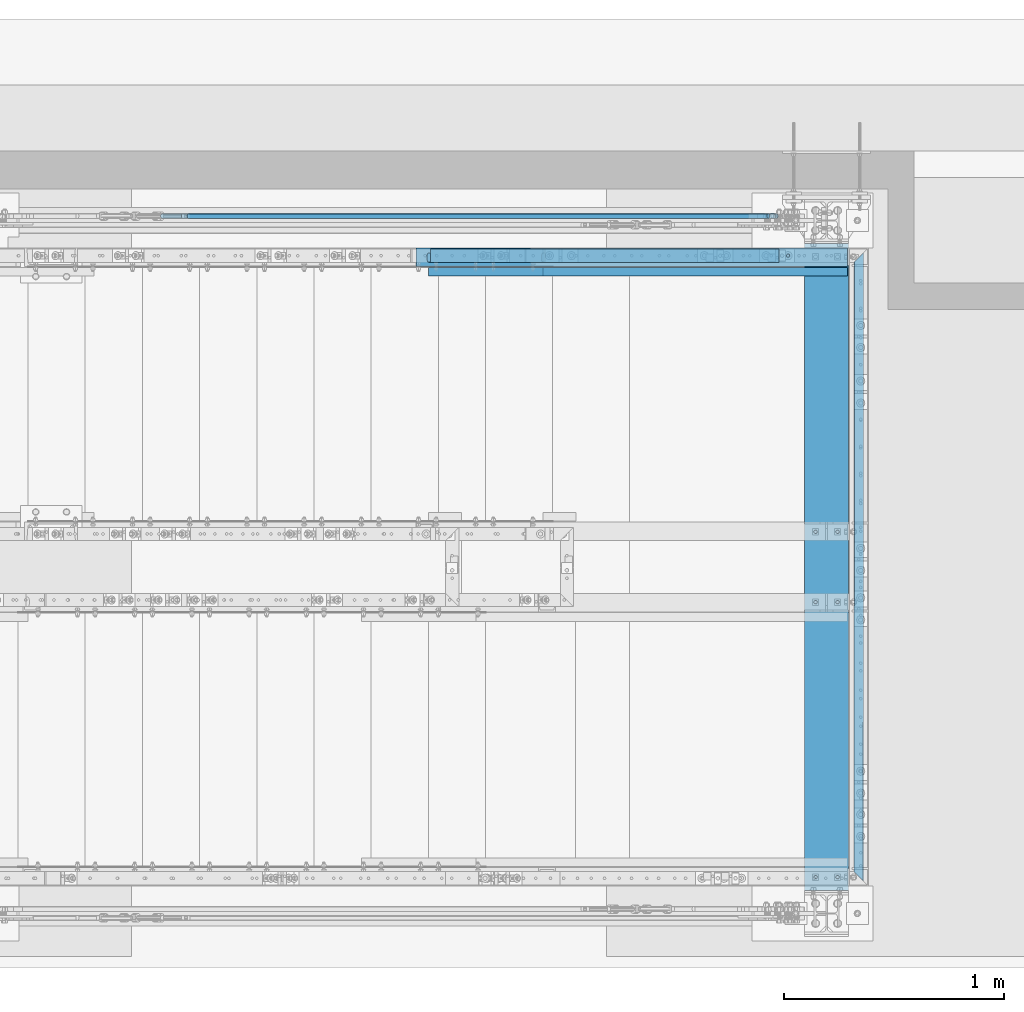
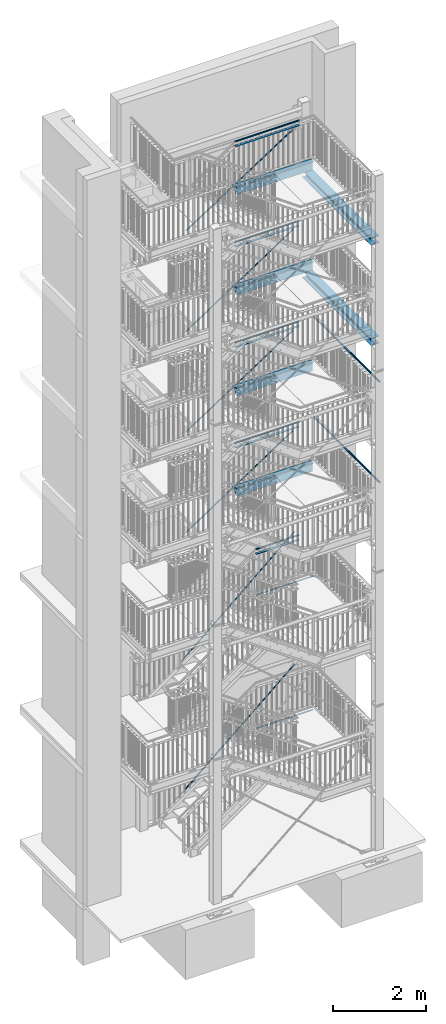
# One storey, part 133 of 831: 24 beams, 6 members, 40 openings.
"""IFC2X3 building model written with IfcOpenShell, lengths in millimetres."""

from ifc_helpers import new_model, entity, si_unit, converted_unit, frame, frame_2d, origin, origin_with_axes, origin_2d, origin_2d_with_axis, place, context, project, spatial, rectangle, circle, hollow_circle, i_section, l_section, u_section, extrude, clip, halfspace, material, element, save


model = new_model("IFC2X3")

# Units and contexts
model_context = context("Model", 3, precision=1e-09, world=origin_with_axes())
ifc_project = project(units=[si_unit("LENGTHUNIT", "METRE", prefix="MILLI"), si_unit("AREAUNIT", "SQUARE_METRE"), si_unit("VOLUMEUNIT", "CUBIC_METRE"), converted_unit("PLANEANGLEUNIT", "DEGREE", entity("IfcPlaneAngleMeasure", 0.01745329), si_unit("PLANEANGLEUNIT", "RADIAN"), dimensions=[0, 0, 0, 0, 0, 0, 0])], contexts=[model_context])

# Site, building, storey
site_placement = place(None, origin_with_axes())
site = spatial("IfcSite", under=ifc_project, at=site_placement, Name="Site", CompositionType="ELEMENT")
building_placement = place(site_placement, origin_with_axes())
building = spatial("IfcBuilding", under=site, at=building_placement, Name="Struktur 1", CompositionType="ELEMENT")
storey_placement = place(building_placement, origin_with_axes())
storey = spatial("IfcBuildingStorey", under=building, at=storey_placement, Name="Default Storey", CompositionType="ELEMENT", Elevation=0.0)

# Beams
ifc_material = material(Name="S235JR")
beam_1_placement = place(None, frame((7066.774372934, 7356.736971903, 17537.8000003), z_axis=(-1.0, 0.0, 0.0), x_axis=(0.0, 0.0, -1.0)))
element("IfcBeam", 1, at=beam_1_placement, inside=storey, material=ifc_material, Name="Railing_Kneerail_Landing#1005", ObjectType="Railing_Kneerail_Landing#1005", context=model_context, shape_type="SweptSolid", body=[
    extrude(rectangle(XDim=10.0, YDim=60.0, at=origin_2d()), origin(), (0.0, 0.0, -1.0), 1582.439601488),
])
beam_2_placement = place(None, frame((7025.211816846, 7347.936971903, 17664.0000003), z_axis=(-1.0, 0.0, 0.0), x_axis=(0.0, 0.0, -1.0)))
element("IfcBeam", 2, at=beam_2_placement, inside=storey, material=ifc_material, Name="Railing_Handrail_Landing#4", ObjectType="Railing_Handrail_Landing#4", context=model_context, shape_type="Clipping", body=[
    clip(extrude(hollow_circle(Radius=21.2, WallThickness=3.2, at=origin_2d()), origin(), (0.0, 0.0, -1.0), 1624.002157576), halfspace(frame((13938.996995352, 7347.936971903, -4526.368604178), z_axis=(-0.306904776, 0.0, -0.951740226), x_axis=(0.0, -1.0, 0.0)), True)),
])
beam_3_placement = place(None, frame((7066.821051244, 7356.736971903, 14910.3000001), z_axis=(-1.0, 0.0, 0.0), x_axis=(0.0, 0.0, -1.0)))
element("IfcBeam", 3, at=beam_3_placement, inside=storey, material=ifc_material, Name="Railing_Kneerail_Landing#1005", ObjectType="Railing_Kneerail_Landing#1005", context=model_context, shape_type="SweptSolid", body=[
    extrude(rectangle(XDim=10.0, YDim=60.0, at=origin_2d()), origin(), (0.0, 0.0, -1.0), 1582.392923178),
])
beam_4_placement = place(None, frame((7025.198020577, 7347.936971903, 15036.5000001), z_axis=(-1.0, 0.0, 0.0), x_axis=(0.0, 0.0, -1.0)))
element("IfcBeam", 4, at=beam_4_placement, inside=storey, material=ifc_material, Name="Railing_Handrail_Landing#4", ObjectType="Railing_Handrail_Landing#4", context=model_context, shape_type="Clipping", body=[
    clip(extrude(hollow_circle(Radius=21.2, WallThickness=3.2, at=origin_2d()), origin(), (0.0, 0.0, -1.0), 1624.015953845), halfspace(frame((11539.310370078, 7347.936971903, -3769.827031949), z_axis=(-0.308193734, 0.0, -0.951323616), x_axis=(0.0, -1.0, 0.0)), True)),
])
beam_5_placement = place(None, frame((7066.796173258, 7356.736971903, 12279.3000003), z_axis=(-1.0, 0.0, 0.0), x_axis=(0.0, 0.0, -1.0)))
element("IfcBeam", 5, at=beam_5_placement, inside=storey, material=ifc_material, Name="Railing_Kneerail_Landing#1005", ObjectType="Railing_Kneerail_Landing#1005", context=model_context, shape_type="SweptSolid", body=[
    extrude(rectangle(XDim=10.0, YDim=60.0, at=origin_2d()), origin(), (0.0, 0.0, -1.0), 1582.417801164),
])
beam_6_placement = place(None, frame((7025.205380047, 7347.936971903, 12405.5000003), z_axis=(-1.0, 0.0, 0.0), x_axis=(0.0, 0.0, -1.0)))
element("IfcBeam", 6, at=beam_6_placement, inside=storey, material=ifc_material, Name="Railing_Handrail_Landing#4", ObjectType="Railing_Handrail_Landing#4", context=model_context, shape_type="Clipping", body=[
    clip(extrude(hollow_circle(Radius=21.2, WallThickness=3.2, at=origin_2d()), origin(), (0.0, 0.0, -1.0), 1624.008594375), halfspace(frame((9167.585155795, 7347.936971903, -2994.158300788), z_axis=(-0.307506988, 0.0, -0.951545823), x_axis=(0.0, -1.0, 0.0)), True)),
])
beam_7_placement = place(None, frame((7066.811726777, 7356.736971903, 9649.8), z_axis=(-1.0, 0.0, 0.0), x_axis=(0.0, 0.0, -1.0)))
element("IfcBeam", 7, at=beam_7_placement, inside=storey, material=ifc_material, Name="Railing_Kneerail_Landing#1005", ObjectType="Railing_Kneerail_Landing#1005", context=model_context, shape_type="SweptSolid", body=[
    extrude(rectangle(XDim=10.0, YDim=60.0, at=origin_2d()), origin(), (0.0, 0.0, -1.0), 1582.402247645),
])
beam_8_placement = place(None, frame((7025.200780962, 7347.936971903, 9776.0), z_axis=(-1.0, 0.0, 0.0), x_axis=(0.0, 0.0, -1.0)))
element("IfcBeam", 8, at=beam_8_placement, inside=storey, material=ifc_material, Name="Railing_Handrail_Landing#4", ObjectType="Railing_Handrail_Landing#4", context=model_context, shape_type="Clipping", body=[
    clip(extrude(hollow_circle(Radius=21.2, WallThickness=3.2, at=origin_2d()), origin(), (0.0, 0.0, -1.0), 1624.013193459), halfspace(frame((6781.567004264, 7347.936971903, -2226.46429398), z_axis=(-0.307936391, 0.0, -0.951406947), x_axis=(0.0, -1.0, 0.0)), True)),
])
beam_9_placement = place(None, frame((7586.583247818, 7356.736971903, 6688.6947367), z_axis=(-1.0, 0.0, 0.0), x_axis=(0.0, 0.0, -1.0)))
element("IfcBeam", 9, at=beam_9_placement, inside=storey, material=ifc_material, Name="Railing_Kneerail_Landing#1005", ObjectType="Railing_Kneerail_Landing#1005", context=model_context, shape_type="SweptSolid", body=[
    extrude(rectangle(XDim=10.0, YDim=60.0, at=origin_2d()), origin(), (0.0, 0.0, -1.0), 1062.630726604),
])
beam_10_placement = place(None, frame((7545.267696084, 7347.936971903, 6814.8947367), z_axis=(-1.0, 0.0, 0.0), x_axis=(0.0, 0.0, -1.0)))
element("IfcBeam", 10, at=beam_10_placement, inside=storey, material=ifc_material, Name="Railing_Handrail_Landing#4", ObjectType="Railing_Handrail_Landing#4", context=model_context, shape_type="Clipping", body=[
    clip(extrude(hollow_circle(Radius=21.2, WallThickness=3.2, at=origin_2d()), origin(), (0.0, 0.0, -1.0), 1103.946278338), halfspace(frame((4016.163485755, 7347.936971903, -1301.924645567), z_axis=(-0.301609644, 0.0, -0.953431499), x_axis=(0.0, -1.0, 0.0)), True)),
])

# Members
member_1_placement = place(None, frame((8638.256627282, 7536.736971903, 3315.333465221), z_axis=(0.757867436, 0.0, 0.652408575), x_axis=(-0.652408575, 0.0, 0.757867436)))
element("IfcMember", 11, at=member_1_placement, inside=storey, material=ifc_material, Name="-", ObjectType="-", context=model_context, shape_type="SweptSolid", body=[
    extrude(circle(Radius=11.0, at=origin_2d()), origin(), (0.0, 0.0, -1.0), 3558.714022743),
])
member_2_placement = place(None, frame((8601.499143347, 7536.736971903, 9442.923796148), z_axis=(0.836004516, 0.0, 0.548722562), x_axis=(-0.548722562, 0.0, 0.836004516)))
element("IfcMember", 12, at=member_2_placement, inside=storey, material=ifc_material, Name="-", ObjectType="-", context=model_context, shape_type="SweptSolid", body=[
    extrude(circle(Radius=11.0, at=origin_2d()), origin(), (0.0, 0.0, -1.0), 3152.493859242),
])
member_3_placement = place(None, frame((8640.181685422, 7536.736971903, 6788.804321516), z_axis=(0.755906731, 0.0, 0.654679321), x_axis=(-0.654679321, 0.0, 0.755906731)))
element("IfcMember", 13, at=member_3_placement, inside=storey, material=ifc_material, Name="-", ObjectType="-", context=model_context, shape_type="SweptSolid", body=[
    extrude(circle(Radius=11.0, at=origin_2d()), origin(), (0.0, 0.0, -1.0), 3695.891465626),
])
member_4_placement = place(None, frame((8601.346619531, 7536.736971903, 12070.156818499), z_axis=(0.836491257, 0.0, 0.54798027), x_axis=(-0.54798027, 0.0, 0.836491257)))
element("IfcMember", 14, at=member_4_placement, inside=storey, material=ifc_material, Name="-", ObjectType="-", context=model_context, shape_type="SweptSolid", body=[
    extrude(circle(Radius=11.0, at=origin_2d()), origin(), (0.0, 0.0, -1.0), 3149.75246665),
])
member_5_placement = place(None, frame((8601.589769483, 7536.736971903, 14704.78533918), z_axis=(0.835719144, 0.0, 0.549157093), x_axis=(-0.549157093, 0.0, 0.835719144)))
element("IfcMember", 15, at=member_5_placement, inside=storey, material=ifc_material, Name="-", ObjectType="-", context=model_context, shape_type="SweptSolid", body=[
    extrude(circle(Radius=11.0, at=origin_2d()), origin(), (0.0, 0.0, -1.0), 3154.140224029),
])
member_6_placement = place(None, frame((8601.135141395, 7536.736971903, 17325.480034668), z_axis=(0.837153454, 0.0, 0.546968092), x_axis=(-0.546968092, 0.0, 0.837153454)))
element("IfcMember", 16, at=member_6_placement, inside=storey, material=ifc_material, Name="-", ObjectType="-", context=model_context, shape_type="SweptSolid", body=[
    extrude(circle(Radius=11.0, at=origin_2d()), origin(), (0.0, 0.0, -1.0), 3145.919934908),
])

# Beam, openings
beam_11_placement = place(None, frame((6741.392105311, 7329.036971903, 11145.5000003), z_axis=(1.0, 0.0, 0.0), x_axis=(0.0, 1.0, 0.0)))
beam_11 = element("IfcBeam", 17, at=beam_11_placement, inside=storey, material=ifc_material, Name="Stringer", ObjectType="Stringer", context=model_context, shape_type="Clipping", body=[
    clip(clip(extrude(u_section(Depth=240.0, FlangeWidth=85.0, WebThickness=9.5, FlangeThickness=13.0, FilletRadius=13.0, EdgeRadius=6.5, FlangeSlope=4.574, at=frame_2d((20.2, 0.0))), origin(), (0.0, 0.0, 1.0), 2477.625068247), halfspace(frame((-7329.036971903, -11145.5000003, 2220.320297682), z_axis=(0.0, 0.0, -1.0), x_axis=(-1.0, 0.0, 0.0)), True)), halfspace(frame((-7329.036971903, -8031.601758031, 2894.216134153), z_axis=(0.0, 0.307506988, 0.951545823), x_axis=(1.0, 0.0, 0.0)), True)),
])
opening_1_placement = place(beam_11_placement, frame((27.7, 120.5, 1943.320869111), z_axis=(0.0, 1.0, 0.0), x_axis=(-1.0, 0.0, 0.0)))
element("IfcOpeningElement", 18, at=opening_1_placement, cuts=beam_11, ObjectType="Opening", context=model_context, shape_type="SweptSolid", body=[
    extrude(circle(Radius=7.001, at=frame_2d((0.0, 7.001), x_axis=(1.0, 0.0))), origin(), (0.0, 0.0, -1.0), 14.0),
])
opening_2_placement = place(beam_11_placement, frame((27.7, 120.5, 1843.320869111), z_axis=(0.0, 1.0, 0.0), x_axis=(-1.0, 0.0, 0.0)))
element("IfcOpeningElement", 19, at=opening_2_placement, cuts=beam_11, ObjectType="Opening", context=model_context, shape_type="SweptSolid", body=[
    extrude(circle(Radius=7.001, at=frame_2d((0.0, 7.001), x_axis=(1.0, 0.0))), origin(), (0.0, 0.0, -1.0), 14.0),
])
opening_3_placement = place(beam_11_placement, frame((27.7, 120.5, 958.320726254), z_axis=(0.0, 1.0, 0.0), x_axis=(-1.0, 0.0, 0.0)))
element("IfcOpeningElement", 20, at=opening_3_placement, cuts=beam_11, ObjectType="Opening", context=model_context, shape_type="SweptSolid", body=[
    extrude(circle(Radius=7.001, at=frame_2d((0.0, 7.001), x_axis=(1.0, 0.0))), origin(), (0.0, 0.0, -1.0), 14.0),
])
opening_4_placement = place(beam_11_placement, frame((27.7, 120.5, 858.320726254), z_axis=(0.0, 1.0, 0.0), x_axis=(-1.0, 0.0, 0.0)))
element("IfcOpeningElement", 21, at=opening_4_placement, cuts=beam_11, ObjectType="Opening", context=model_context, shape_type="SweptSolid", body=[
    extrude(circle(Radius=7.001, at=frame_2d((0.0, 7.001), x_axis=(1.0, 0.0))), origin(), (0.0, 0.0, -1.0), 14.0),
])
opening_5_placement = place(beam_11_placement, frame((22.7, -120.5, 2075.321297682), z_axis=(0.0, 1.0, 0.0), x_axis=(1.0, 0.0, 0.0)))
element("IfcOpeningElement", 22, at=opening_5_placement, cuts=beam_11, ObjectType="Opening", context=model_context, shape_type="SweptSolid", body=[
    extrude(circle(Radius=7.001, at=origin_2d_with_axis()), origin(), (0.0, 0.0, 1.0), 14.0),
])
opening_6_placement = place(beam_11_placement, frame((22.7, -120.5, 2175.321297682), z_axis=(0.0, 1.0, 0.0), x_axis=(1.0, 0.0, 0.0)))
element("IfcOpeningElement", 23, at=opening_6_placement, cuts=beam_11, ObjectType="Opening", context=model_context, shape_type="SweptSolid", body=[
    extrude(circle(Radius=7.001, at=origin_2d_with_axis()), origin(), (0.0, 0.0, 1.0), 14.0),
])

# Beam
beam_12_placement = place(None, frame((7056.713402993, 7292.536971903, 11254.3000003), z_axis=(-1.0, 0.0, 0.0), x_axis=(0.0, 0.0, -1.0)))
element("IfcBeam", 24, at=beam_12_placement, inside=storey, material=ifc_material, Name="TopLanding#3", ObjectType="TopLanding#3", context=model_context, shape_type="SweptSolid", body=[
    extrude(l_section(Depth=40.0, Width=40.0, Thickness=4.0, FilletRadius=6.0, EdgeRadius=3.0, at=frame_2d((8.8, 8.8))), origin(), (0.0, 0.0, -1.0), 1905.0),
])

# Beam, openings
beam_13_placement = place(None, frame((6741.459458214, 7329.036971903, 8516.0), z_axis=(1.0, 0.0, 0.0), x_axis=(0.0, 1.0, 0.0)))
beam_13 = element("IfcBeam", 25, at=beam_13_placement, inside=storey, material=ifc_material, Name="Stringer", ObjectType="Stringer", context=model_context, shape_type="Clipping", body=[
    clip(clip(extrude(u_section(Depth=240.0, FlangeWidth=85.0, WebThickness=9.5, FlangeThickness=13.0, FilletRadius=13.0, EdgeRadius=6.5, FlangeSlope=4.574, at=frame_2d((20.2, 0.0))), origin(), (0.0, 0.0, 1.0), 2477.557715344), halfspace(frame((-7329.036971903, -8516.0, 2220.25294478), z_axis=(0.0, 0.0, -1.0), x_axis=(-1.0, 0.0, 0.0)), True)), halfspace(frame((-7329.036971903, -5645.874307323, 2126.143079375), z_axis=(0.0, 0.307936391, 0.951406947), x_axis=(1.0, 0.0, 0.0)), True)),
])
opening_7_placement = place(beam_13_placement, frame((27.7, 120.5, 1943.253516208), z_axis=(0.0, 1.0, 0.0), x_axis=(-1.0, 0.0, 0.0)))
element("IfcOpeningElement", 26, at=opening_7_placement, cuts=beam_13, ObjectType="Opening", context=model_context, shape_type="SweptSolid", body=[
    extrude(circle(Radius=7.001, at=frame_2d((0.0, 7.001), x_axis=(1.0, 0.0))), origin(), (0.0, 0.0, -1.0), 14.0),
])
opening_8_placement = place(beam_13_placement, frame((27.7, 120.5, 1843.253516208), z_axis=(0.0, 1.0, 0.0), x_axis=(-1.0, 0.0, 0.0)))
element("IfcOpeningElement", 27, at=opening_8_placement, cuts=beam_13, ObjectType="Opening", context=model_context, shape_type="SweptSolid", body=[
    extrude(circle(Radius=7.001, at=frame_2d((0.0, 7.001), x_axis=(1.0, 0.0))), origin(), (0.0, 0.0, -1.0), 14.0),
])
opening_9_placement = place(beam_13_placement, frame((27.7, 120.5, 958.253373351), z_axis=(0.0, 1.0, 0.0), x_axis=(-1.0, 0.0, 0.0)))
element("IfcOpeningElement", 28, at=opening_9_placement, cuts=beam_13, ObjectType="Opening", context=model_context, shape_type="SweptSolid", body=[
    extrude(circle(Radius=7.001, at=frame_2d((0.0, 7.001), x_axis=(1.0, 0.0))), origin(), (0.0, 0.0, -1.0), 14.0),
])
opening_10_placement = place(beam_13_placement, frame((27.7, 120.5, 858.253373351), z_axis=(0.0, 1.0, 0.0), x_axis=(-1.0, 0.0, 0.0)))
element("IfcOpeningElement", 29, at=opening_10_placement, cuts=beam_13, ObjectType="Opening", context=model_context, shape_type="SweptSolid", body=[
    extrude(circle(Radius=7.001, at=frame_2d((0.0, 7.001), x_axis=(1.0, 0.0))), origin(), (0.0, 0.0, -1.0), 14.0),
])
opening_11_placement = place(beam_13_placement, frame((22.7, -120.5, 2075.25394478), z_axis=(0.0, 1.0, 0.0), x_axis=(1.0, 0.0, 0.0)))
element("IfcOpeningElement", 30, at=opening_11_placement, cuts=beam_13, ObjectType="Opening", context=model_context, shape_type="SweptSolid", body=[
    extrude(circle(Radius=7.001, at=origin_2d_with_axis()), origin(), (0.0, 0.0, 1.0), 14.0),
])
opening_12_placement = place(beam_13_placement, frame((22.7, -120.5, 2175.25394478), z_axis=(0.0, 1.0, 0.0), x_axis=(1.0, 0.0, 0.0)))
element("IfcOpeningElement", 31, at=opening_12_placement, cuts=beam_13, ObjectType="Opening", context=model_context, shape_type="SweptSolid", body=[
    extrude(circle(Radius=7.001, at=origin_2d_with_axis()), origin(), (0.0, 0.0, 1.0), 14.0),
])

# Beam
beam_14_placement = place(None, frame((7056.713402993, 7292.536971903, 8624.8), z_axis=(-1.0, 0.0, 0.0), x_axis=(0.0, 0.0, -1.0)))
element("IfcBeam", 32, at=beam_14_placement, inside=storey, material=ifc_material, Name="TopLanding#3", ObjectType="TopLanding#3", context=model_context, shape_type="SweptSolid", body=[
    extrude(l_section(Depth=40.0, Width=40.0, Thickness=4.0, FilletRadius=6.0, EdgeRadius=3.0, at=frame_2d((8.8, 8.8))), origin(), (0.0, 0.0, -1.0), 1905.0),
])

# Beam, openings
beam_15_placement = place(None, frame((6741.499671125, 7329.036971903, 13776.5000001), z_axis=(1.0, 0.0, 0.0), x_axis=(0.0, 1.0, 0.0)))
beam_15 = element("IfcBeam", 33, at=beam_15_placement, inside=storey, material=ifc_material, Name="Stringer", ObjectType="Stringer", context=model_context, shape_type="Clipping", body=[
    clip(clip(extrude(u_section(Depth=240.0, FlangeWidth=85.0, WebThickness=9.5, FlangeThickness=13.0, FilletRadius=13.0, EdgeRadius=6.5, FlangeSlope=4.574, at=frame_2d((20.2, 0.0))), origin(), (0.0, 0.0, 1.0), 2477.517502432), halfspace(frame((-7329.036971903, -13776.5000001, 2220.212731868), z_axis=(0.0, 0.0, -1.0), x_axis=(-1.0, 0.0, 0.0)), True)), halfspace(frame((-7329.036971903, -10403.792085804, 3669.278777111), z_axis=(0.0, 0.308193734, 0.951323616), x_axis=(1.0, 0.0, 0.0)), True)),
])
opening_13_placement = place(beam_15_placement, frame((27.7, 120.5, 1943.213303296), z_axis=(0.0, 1.0, 0.0), x_axis=(-1.0, 0.0, 0.0)))
element("IfcOpeningElement", 34, at=opening_13_placement, cuts=beam_15, ObjectType="Opening", context=model_context, shape_type="SweptSolid", body=[
    extrude(circle(Radius=7.001, at=frame_2d((0.0, 7.001), x_axis=(1.0, 0.0))), origin(), (0.0, 0.0, -1.0), 14.0),
])
opening_14_placement = place(beam_15_placement, frame((27.7, 120.5, 1843.213303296), z_axis=(0.0, 1.0, 0.0), x_axis=(-1.0, 0.0, 0.0)))
element("IfcOpeningElement", 35, at=opening_14_placement, cuts=beam_15, ObjectType="Opening", context=model_context, shape_type="SweptSolid", body=[
    extrude(circle(Radius=7.001, at=frame_2d((0.0, 7.001), x_axis=(1.0, 0.0))), origin(), (0.0, 0.0, -1.0), 14.0),
])
opening_15_placement = place(beam_15_placement, frame((27.7, 120.5, 958.213160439), z_axis=(0.0, 1.0, 0.0), x_axis=(-1.0, 0.0, 0.0)))
element("IfcOpeningElement", 36, at=opening_15_placement, cuts=beam_15, ObjectType="Opening", context=model_context, shape_type="SweptSolid", body=[
    extrude(circle(Radius=7.001, at=frame_2d((0.0, 7.001), x_axis=(1.0, 0.0))), origin(), (0.0, 0.0, -1.0), 14.0),
])
opening_16_placement = place(beam_15_placement, frame((27.7, 120.5, 858.213160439), z_axis=(0.0, 1.0, 0.0), x_axis=(-1.0, 0.0, 0.0)))
element("IfcOpeningElement", 37, at=opening_16_placement, cuts=beam_15, ObjectType="Opening", context=model_context, shape_type="SweptSolid", body=[
    extrude(circle(Radius=7.001, at=frame_2d((0.0, 7.001), x_axis=(1.0, 0.0))), origin(), (0.0, 0.0, -1.0), 14.0),
])
opening_17_placement = place(beam_15_placement, frame((22.7, -120.5, 2075.213731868), z_axis=(0.0, 1.0, 0.0), x_axis=(1.0, 0.0, 0.0)))
element("IfcOpeningElement", 38, at=opening_17_placement, cuts=beam_15, ObjectType="Opening", context=model_context, shape_type="SweptSolid", body=[
    extrude(circle(Radius=7.001, at=origin_2d_with_axis()), origin(), (0.0, 0.0, 1.0), 14.0),
])
opening_18_placement = place(beam_15_placement, frame((22.7, -120.5, 2175.213731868), z_axis=(0.0, 1.0, 0.0), x_axis=(1.0, 0.0, 0.0)))
element("IfcOpeningElement", 39, at=opening_18_placement, cuts=beam_15, ObjectType="Opening", context=model_context, shape_type="SweptSolid", body=[
    extrude(circle(Radius=7.001, at=origin_2d_with_axis()), origin(), (0.0, 0.0, 1.0), 14.0),
])

# Beam
beam_16_placement = place(None, frame((7056.713402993, 7292.536971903, 13885.3000001), z_axis=(-1.0, 0.0, 0.0), x_axis=(0.0, 0.0, -1.0)))
element("IfcBeam", 40, at=beam_16_placement, inside=storey, material=ifc_material, Name="TopLanding#3", ObjectType="TopLanding#3", context=model_context, shape_type="SweptSolid", body=[
    extrude(l_section(Depth=40.0, Width=40.0, Thickness=4.0, FilletRadius=6.0, EdgeRadius=3.0, at=frame_2d((8.8, 8.8))), origin(), (0.0, 0.0, -1.0), 1905.0),
])

# Beam, openings
beam_17_placement = place(None, frame((6741.297112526, 7329.036971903, 16404.0000003), z_axis=(1.0, 0.0, 0.0), x_axis=(0.0, 1.0, 0.0)))
beam_17 = element("IfcBeam", 41, at=beam_17_placement, inside=storey, material=ifc_material, Name="Stringer", ObjectType="Stringer", context=model_context, shape_type="Clipping", body=[
    clip(clip(extrude(u_section(Depth=240.0, FlangeWidth=85.0, WebThickness=9.5, FlangeThickness=13.0, FilletRadius=13.0, EdgeRadius=6.5, FlangeSlope=4.574, at=frame_2d((20.2, 0.0))), origin(), (0.0, 0.0, 1.0), 2477.720061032), halfspace(frame((-7329.036971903, -16404.0000003, 2220.415290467), z_axis=(0.0, 0.0, -1.0), x_axis=(-1.0, 0.0, 0.0)), True)), halfspace(frame((-7329.036971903, -12802.606591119, 4426.958467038), z_axis=(0.0, 0.306904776, 0.951740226), x_axis=(1.0, 0.0, 0.0)), True)),
])
opening_19_placement = place(beam_17_placement, frame((27.7, 120.5, 1943.415861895), z_axis=(0.0, 1.0, 0.0), x_axis=(-1.0, 0.0, 0.0)))
element("IfcOpeningElement", 42, at=opening_19_placement, cuts=beam_17, ObjectType="Opening", context=model_context, shape_type="SweptSolid", body=[
    extrude(circle(Radius=7.001, at=frame_2d((0.0, 7.001), x_axis=(1.0, 0.0))), origin(), (0.0, 0.0, -1.0), 14.0),
])
opening_20_placement = place(beam_17_placement, frame((27.7, 120.5, 1843.415861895), z_axis=(0.0, 1.0, 0.0), x_axis=(-1.0, 0.0, 0.0)))
element("IfcOpeningElement", 43, at=opening_20_placement, cuts=beam_17, ObjectType="Opening", context=model_context, shape_type="SweptSolid", body=[
    extrude(circle(Radius=7.001, at=frame_2d((0.0, 7.001), x_axis=(1.0, 0.0))), origin(), (0.0, 0.0, -1.0), 14.0),
])
opening_21_placement = place(beam_17_placement, frame((27.7, 120.5, 958.415719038), z_axis=(0.0, 1.0, 0.0), x_axis=(-1.0, 0.0, 0.0)))
element("IfcOpeningElement", 44, at=opening_21_placement, cuts=beam_17, ObjectType="Opening", context=model_context, shape_type="SweptSolid", body=[
    extrude(circle(Radius=7.001, at=frame_2d((0.0, 7.001), x_axis=(1.0, 0.0))), origin(), (0.0, 0.0, -1.0), 14.0),
])
opening_22_placement = place(beam_17_placement, frame((27.7, 120.5, 858.415719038), z_axis=(0.0, 1.0, 0.0), x_axis=(-1.0, 0.0, 0.0)))
element("IfcOpeningElement", 45, at=opening_22_placement, cuts=beam_17, ObjectType="Opening", context=model_context, shape_type="SweptSolid", body=[
    extrude(circle(Radius=7.001, at=frame_2d((0.0, 7.001), x_axis=(1.0, 0.0))), origin(), (0.0, 0.0, -1.0), 14.0),
])
opening_23_placement = place(beam_17_placement, frame((22.7, -120.5, 2175.416290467), z_axis=(0.0, 1.0, 0.0), x_axis=(1.0, 0.0, 0.0)))
element("IfcOpeningElement", 46, at=opening_23_placement, cuts=beam_17, ObjectType="Opening", context=model_context, shape_type="SweptSolid", body=[
    extrude(circle(Radius=7.001, at=origin_2d_with_axis()), origin(), (0.0, 0.0, 1.0), 14.0),
])
opening_24_placement = place(beam_17_placement, frame((22.7, -120.5, 2075.416290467), z_axis=(0.0, 1.0, 0.0), x_axis=(1.0, 0.0, 0.0)))
element("IfcOpeningElement", 47, at=opening_24_placement, cuts=beam_17, ObjectType="Opening", context=model_context, shape_type="SweptSolid", body=[
    extrude(circle(Radius=7.001, at=origin_2d_with_axis()), origin(), (0.0, 0.0, 1.0), 14.0),
])

# Beams
beam_18_placement = place(None, frame((7056.713402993, 7292.536971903, 16512.8000003), z_axis=(-1.0, 0.0, 0.0), x_axis=(0.0, 0.0, -1.0)))
element("IfcBeam", 48, at=beam_18_placement, inside=storey, material=ifc_material, Name="TopLanding#3", ObjectType="TopLanding#3", context=model_context, shape_type="SweptSolid", body=[
    extrude(l_section(Depth=40.0, Width=40.0, Thickness=4.0, FilletRadius=6.0, EdgeRadius=3.0, at=frame_2d((8.8, 8.8))), origin(), (0.0, 0.0, -1.0), 1905.0),
])
for number, where, z_axis, x_axis, name in (
    (49, (7576.713402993, 7292.536971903, 5663.6947367), (-1.0, 0.0, 0.0), (0.0, 0.0, -1.0), "TopLanding#3"),
    (50, (7576.713402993, 7292.536971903, 2169.8526312), (-1.0, 0.0, 0.0), (0.0, 0.0, -1.0), "TopLanding#3"),
):
    element("IfcBeam", number, at=place(None, frame(where, z_axis=z_axis, x_axis=x_axis)), inside=storey, material=ifc_material, Name=name, ObjectType="TopLanding#3", context=model_context, shape_type="SweptSolid", body=[
        extrude(l_section(Depth=40.0, Width=40.0, Thickness=4.0, FilletRadius=6.0, EdgeRadius=3.0, at=frame_2d((8.8, 8.8))), origin(), (0.0, 0.0, -1.0), 1385.0),
    ])

# Beam, openings
beam_19_placement = place(None, frame((8866.713402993, 7559.668114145, 13561.5000001), z_axis=(0.0, -1.0, 0.0), x_axis=(-1.0, 0.0, 0.0)))
beam_19 = element("IfcBeam", 51, at=beam_19_placement, inside=storey, material=ifc_material, Name="Girder", ObjectType="Girder", context=model_context, shape_type="Clipping", body=[
    clip(clip(extrude(i_section(OverallWidth=200.0, OverallDepth=190.0, WebThickness=6.5, FlangeThickness=10.0, FilletRadius=18.0, at=origin_2d()), origin(), (0.0, 0.0, 1.0), 3235.862284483), halfspace(frame((8866.713402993, 13561.5000001, 3087.930142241), z_axis=(0.0, 0.0, -1.0), x_axis=(1.0, 0.0, 0.0)), True)), halfspace(frame((8866.713402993, 13561.5000001, 147.932142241), z_axis=(0.0, 0.0, 1.0), x_axis=(-1.0, 0.0, 0.0)), True)),
])
opening_25_placement = place(beam_19_placement, frame((50.0, -84.5, 1457.931142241), z_axis=(0.0, -1.0, 0.0), x_axis=(0.0, 0.0, -1.0)))
element("IfcOpeningElement", 52, at=opening_25_placement, cuts=beam_19, ObjectType="Opening", context=model_context, shape_type="SweptSolid", body=[
    extrude(circle(Radius=7.001, at=origin_2d_with_axis()), origin(), (0.0, 0.0, 1.0), 11.0),
])
opening_26_placement = place(beam_19_placement, frame((50.0, -84.5, 207.931142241), z_axis=(0.0, -1.0, 0.0), x_axis=(0.0, 0.0, -1.0)))
element("IfcOpeningElement", 53, at=opening_26_placement, cuts=beam_19, ObjectType="Opening", context=model_context, shape_type="SweptSolid", body=[
    extrude(circle(Radius=7.001, at=origin_2d_with_axis()), origin(), (0.0, 0.0, 1.0), 11.0),
])
opening_27_placement = place(beam_19_placement, frame((-50.0, -84.5, 3034.932142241), z_axis=(0.0, 1.0, 0.0), x_axis=(-1.0, 0.0, 0.0)))
element("IfcOpeningElement", 54, at=opening_27_placement, cuts=beam_19, ObjectType="Opening", context=model_context, shape_type="SweptSolid", body=[
    extrude(circle(Radius=7.001, at=frame_2d((0.0, -7.001), x_axis=(1.0, 0.0))), origin(), (0.0, 0.0, -1.0), 11.0),
])
opening_28_placement = place(beam_19_placement, frame((-50.0, -84.5, 1457.931142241), z_axis=(0.0, -1.0, 0.0), x_axis=(0.0, 0.0, -1.0)))
element("IfcOpeningElement", 55, at=opening_28_placement, cuts=beam_19, ObjectType="Opening", context=model_context, shape_type="SweptSolid", body=[
    extrude(circle(Radius=7.001, at=origin_2d_with_axis()), origin(), (0.0, 0.0, 1.0), 11.0),
])
opening_29_placement = place(beam_19_placement, frame((50.0, -84.5, 3034.932142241), z_axis=(0.0, 1.0, 0.0), x_axis=(-1.0, 0.0, 0.0)))
element("IfcOpeningElement", 56, at=opening_29_placement, cuts=beam_19, ObjectType="Opening", context=model_context, shape_type="SweptSolid", body=[
    extrude(circle(Radius=7.001, at=frame_2d((0.0, -7.001), x_axis=(1.0, 0.0))), origin(), (0.0, 0.0, -1.0), 11.0),
])
opening_30_placement = place(beam_19_placement, frame((-50.0, -84.5, 1784.932142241), z_axis=(0.0, 1.0, 0.0), x_axis=(-1.0, 0.0, 0.0)))
element("IfcOpeningElement", 57, at=opening_30_placement, cuts=beam_19, ObjectType="Opening", context=model_context, shape_type="SweptSolid", body=[
    extrude(circle(Radius=7.001, at=frame_2d((0.0, -7.001), x_axis=(1.0, 0.0))), origin(), (0.0, 0.0, -1.0), 11.0),
])
opening_31_placement = place(beam_19_placement, frame((50.0, -84.5, 1784.932142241), z_axis=(0.0, 1.0, 0.0), x_axis=(-1.0, 0.0, 0.0)))
element("IfcOpeningElement", 58, at=opening_31_placement, cuts=beam_19, ObjectType="Opening", context=model_context, shape_type="SweptSolid", body=[
    extrude(circle(Radius=7.001, at=frame_2d((0.0, -7.001), x_axis=(1.0, 0.0))), origin(), (0.0, 0.0, -1.0), 11.0),
])
opening_32_placement = place(beam_19_placement, frame((-50.0, -84.5, 207.931142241), z_axis=(0.0, -1.0, 0.0), x_axis=(0.0, 0.0, -1.0)))
element("IfcOpeningElement", 59, at=opening_32_placement, cuts=beam_19, ObjectType="Opening", context=model_context, shape_type="SweptSolid", body=[
    extrude(circle(Radius=7.001, at=origin_2d_with_axis()), origin(), (0.0, 0.0, 1.0), 11.0),
])

beam_20_placement = place(None, frame((8866.713402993, 7559.668114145, 16189.0000003), z_axis=(0.0, -1.0, 0.0), x_axis=(-1.0, 0.0, 0.0)))
beam_20 = element("IfcBeam", 60, at=beam_20_placement, inside=storey, material=ifc_material, Name="Girder", ObjectType="Girder", context=model_context, shape_type="Clipping", body=[
    clip(clip(extrude(i_section(OverallWidth=200.0, OverallDepth=190.0, WebThickness=6.5, FlangeThickness=10.0, FilletRadius=18.0, at=origin_2d()), origin(), (0.0, 0.0, 1.0), 3235.862284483), halfspace(frame((8866.713402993, 16189.0000003, 3087.930142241), z_axis=(0.0, 0.0, -1.0), x_axis=(1.0, 0.0, 0.0)), True)), halfspace(frame((8866.713402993, 16189.0000003, 147.932142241), z_axis=(0.0, 0.0, 1.0), x_axis=(-1.0, 0.0, 0.0)), True)),
])
opening_33_placement = place(beam_20_placement, frame((50.0, -84.5, 1784.932142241), z_axis=(0.0, 1.0, 0.0), x_axis=(-1.0, 0.0, 0.0)))
element("IfcOpeningElement", 61, at=opening_33_placement, cuts=beam_20, ObjectType="Opening", context=model_context, shape_type="SweptSolid", body=[
    extrude(circle(Radius=7.001, at=frame_2d((0.0, -7.001), x_axis=(1.0, 0.0))), origin(), (0.0, 0.0, -1.0), 11.0),
])
opening_34_placement = place(beam_20_placement, frame((-50.0, -84.5, 1457.931142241), z_axis=(0.0, -1.0, 0.0), x_axis=(0.0, 0.0, -1.0)))
element("IfcOpeningElement", 62, at=opening_34_placement, cuts=beam_20, ObjectType="Opening", context=model_context, shape_type="SweptSolid", body=[
    extrude(circle(Radius=7.001, at=origin_2d_with_axis()), origin(), (0.0, 0.0, 1.0), 11.0),
])
opening_35_placement = place(beam_20_placement, frame((-50.0, -84.5, 207.931142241), z_axis=(0.0, -1.0, 0.0), x_axis=(0.0, 0.0, -1.0)))
element("IfcOpeningElement", 63, at=opening_35_placement, cuts=beam_20, ObjectType="Opening", context=model_context, shape_type="SweptSolid", body=[
    extrude(circle(Radius=7.001, at=origin_2d_with_axis()), origin(), (0.0, 0.0, 1.0), 11.0),
])
opening_36_placement = place(beam_20_placement, frame((50.0, -84.5, 1457.931142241), z_axis=(0.0, -1.0, 0.0), x_axis=(0.0, 0.0, -1.0)))
element("IfcOpeningElement", 64, at=opening_36_placement, cuts=beam_20, ObjectType="Opening", context=model_context, shape_type="SweptSolid", body=[
    extrude(circle(Radius=7.001, at=origin_2d_with_axis()), origin(), (0.0, 0.0, 1.0), 11.0),
])
opening_37_placement = place(beam_20_placement, frame((50.0, -84.5, 207.931142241), z_axis=(0.0, -1.0, 0.0), x_axis=(0.0, 0.0, -1.0)))
element("IfcOpeningElement", 65, at=opening_37_placement, cuts=beam_20, ObjectType="Opening", context=model_context, shape_type="SweptSolid", body=[
    extrude(circle(Radius=7.001, at=origin_2d_with_axis()), origin(), (0.0, 0.0, 1.0), 11.0),
])
opening_38_placement = place(beam_20_placement, frame((50.0, -84.5, 3034.932142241), z_axis=(0.0, 1.0, 0.0), x_axis=(-1.0, 0.0, 0.0)))
element("IfcOpeningElement", 66, at=opening_38_placement, cuts=beam_20, ObjectType="Opening", context=model_context, shape_type="SweptSolid", body=[
    extrude(circle(Radius=7.001, at=frame_2d((0.0, -7.001), x_axis=(1.0, 0.0))), origin(), (0.0, 0.0, -1.0), 11.0),
])
opening_39_placement = place(beam_20_placement, frame((-50.0, -84.5, 1784.932142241), z_axis=(0.0, 1.0, 0.0), x_axis=(-1.0, 0.0, 0.0)))
element("IfcOpeningElement", 67, at=opening_39_placement, cuts=beam_20, ObjectType="Opening", context=model_context, shape_type="SweptSolid", body=[
    extrude(circle(Radius=7.001, at=frame_2d((0.0, -7.001), x_axis=(1.0, 0.0))), origin(), (0.0, 0.0, -1.0), 11.0),
])
opening_40_placement = place(beam_20_placement, frame((-50.0, -84.5, 3034.932142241), z_axis=(0.0, 1.0, 0.0), x_axis=(-1.0, 0.0, 0.0)))
element("IfcOpeningElement", 68, at=opening_40_placement, cuts=beam_20, ObjectType="Opening", context=model_context, shape_type="SweptSolid", body=[
    extrude(circle(Radius=7.001, at=frame_2d((0.0, -7.001), x_axis=(1.0, 0.0))), origin(), (0.0, 0.0, -1.0), 11.0),
])

# Beams
beam_21_placement = place(None, frame((9012.913402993, 7390.336971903, 9776.0), z_axis=(0.0, 1.0, 0.0), x_axis=(0.0, 0.0, -1.0)))
element("IfcBeam", 69, at=beam_21_placement, inside=storey, material=ifc_material, Name="Gel?nder", ObjectType="Gel?nder", context=model_context, shape_type="Clipping", body=[
    clip(clip(extrude(hollow_circle(Radius=21.2, WallThickness=3.2, at=origin_2d()), origin(), (0.0, 0.0, -1.0), 2897.2), halfspace(frame((9776.0, 8180.424480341, -8222.825894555), z_axis=(0.0, -0.707106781, -0.707106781), x_axis=(0.0, -0.707106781, 0.707106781)), True)), halfspace(frame((9776.0, 2238.687508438, -616.111077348), z_axis=(0.0, -0.707106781, 0.707106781), x_axis=(0.0, 0.707106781, 0.707106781)), True)),
])
beam_22_placement = place(None, frame((9012.913402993, 7390.336971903, 12405.5000003), z_axis=(0.0, 1.0, 0.0), x_axis=(0.0, 0.0, -1.0)))
element("IfcBeam", 70, at=beam_22_placement, inside=storey, material=ifc_material, Name="Gel?nder", ObjectType="Gel?nder", context=model_context, shape_type="Clipping", body=[
    clip(clip(extrude(hollow_circle(Radius=21.2, WallThickness=3.2, at=origin_2d()), origin(), (0.0, 0.0, -1.0), 2897.2), halfspace(frame((12405.5000003, 8180.424480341, -8222.825894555), z_axis=(0.0, -0.707106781, -0.707106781), x_axis=(0.0, -0.707106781, 0.707106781)), True)), halfspace(frame((12405.5000003, 2238.687508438, -616.111077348), z_axis=(0.0, -0.707106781, 0.707106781), x_axis=(0.0, 0.707106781, 0.707106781)), True)),
])

save(model, "model.ifc")
